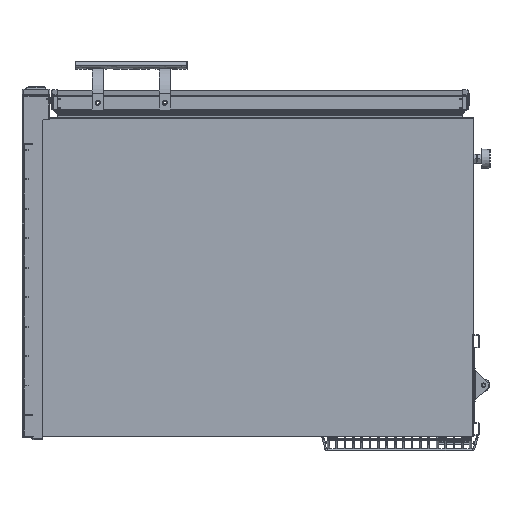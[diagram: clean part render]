
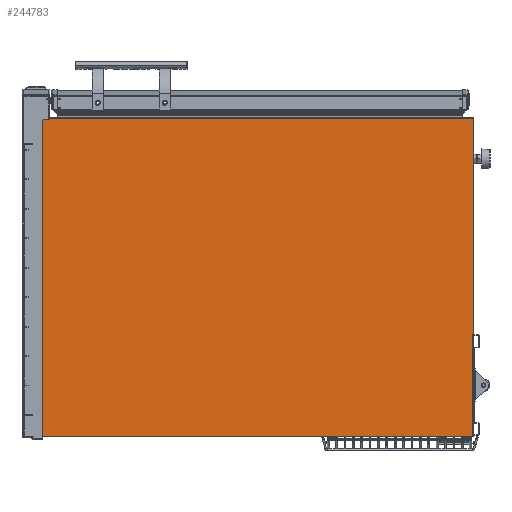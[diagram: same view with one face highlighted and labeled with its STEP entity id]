
A CAD part, left-side view. The second image highlights one B-rep face of the part: STEP entity #244783.
In plain terms, the highlighted planar face has unit normal (-1, 0, 0).
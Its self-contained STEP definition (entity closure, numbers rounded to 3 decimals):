
#382 = CARTESIAN_POINT ( 'NONE',  ( -252.732, -553.452, 1072.5 ) ) ;
#1291 = DIRECTION ( 'NONE',  ( 0., 0., -1. ) ) ;
#9721 = CARTESIAN_POINT ( 'NONE',  ( -252.732, -553.452, 1070.709 ) ) ;
#11742 = EDGE_CURVE ( 'NONE', #144553, #155879, #125437, .T. ) ;
#12757 = ORIENTED_EDGE ( 'NONE', *, *, #91485, .F. ) ;
#17009 = DIRECTION ( 'NONE',  ( -1., 0., 0. ) ) ;
#29004 = VECTOR ( 'NONE', #38626, 1000. ) ;
#34865 = VECTOR ( 'NONE', #123767, 1000. ) ;
#38626 = DIRECTION ( 'NONE',  ( 0., 1., 0. ) ) ;
#50674 = LINE ( 'NONE', #205870, #316785 ) ;
#53159 = CARTESIAN_POINT ( 'NONE',  ( -252.732, -553.452, 1072.5 ) ) ;
#55646 = ORIENTED_EDGE ( 'NONE', *, *, #254977, .T. ) ;
#58672 = DIRECTION ( 'NONE',  ( 0., 0., -1. ) ) ;
#66540 = EDGE_CURVE ( 'NONE', #195499, #245864, #225629, .T. ) ;
#68899 = CARTESIAN_POINT ( 'NONE',  ( -252.732, -553.452, 503.5 ) ) ;
#80126 = EDGE_CURVE ( 'NONE', #144553, #332809, #226673, .T. ) ;
#88007 = FACE_OUTER_BOUND ( 'NONE', #130937, .T. ) ;
#91485 = EDGE_CURVE ( 'NONE', #246480, #238516, #163140, .T. ) ;
#97891 = CARTESIAN_POINT ( 'NONE',  ( -252.732, -159.952, 788. ) ) ;
#99702 = ORIENTED_EDGE ( 'NONE', *, *, #66540, .T. ) ;
#107125 = ORIENTED_EDGE ( 'NONE', *, *, #156618, .T. ) ;
#108107 = LINE ( 'NONE', #382, #314966 ) ;
#110634 = CARTESIAN_POINT ( 'NONE',  ( -252.732, -553.452, 1070.709 ) ) ;
#112790 = AXIS2_PLACEMENT_3D ( 'NONE', #97891, #17009, #302151 ) ;
#120767 = CARTESIAN_POINT ( 'NONE',  ( -252.732, 233.548, 503.5 ) ) ;
#122401 = CARTESIAN_POINT ( 'NONE',  ( -252.732, 233.548, 505. ) ) ;
#123767 = DIRECTION ( 'NONE',  ( 0., 1., 0. ) ) ;
#125437 = LINE ( 'NONE', #203021, #298715 ) ;
#127770 = CARTESIAN_POINT ( 'NONE',  ( -252.732, 232.048, 503.5 ) ) ;
#129048 = ORIENTED_EDGE ( 'NONE', *, *, #305973, .F. ) ;
#129328 = CARTESIAN_POINT ( 'NONE',  ( -252.732, 232.048, 1072.5 ) ) ;
#129396 = LINE ( 'NONE', #232300, #271432 ) ;
#130937 = EDGE_LOOP ( 'NONE', ( #107125, #129048, #99702, #288697, #12757, #157332, #55646, #162275, #316323, #303049, #234724, #220745 ) ) ;
#132340 = DIRECTION ( 'NONE',  ( 0., 1., 0. ) ) ;
#134988 = CARTESIAN_POINT ( 'NONE',  ( -252.732, -553.452, 1072.5 ) ) ;
#144553 = VERTEX_POINT ( 'NONE', #129328 ) ;
#155667 = VECTOR ( 'NONE', #132340, 1000. ) ;
#155879 = VERTEX_POINT ( 'NONE', #179144 ) ;
#156618 = EDGE_CURVE ( 'NONE', #163538, #237413, #50674, .T. ) ;
#157332 = ORIENTED_EDGE ( 'NONE', *, *, #272225, .T. ) ;
#162275 = ORIENTED_EDGE ( 'NONE', *, *, #11742, .F. ) ;
#163140 = LINE ( 'NONE', #9721, #219422 ) ;
#163538 = VERTEX_POINT ( 'NONE', #120767 ) ;
#165404 = VERTEX_POINT ( 'NONE', #210685 ) ;
#166777 = VERTEX_POINT ( 'NONE', #195250 ) ;
#166907 = LINE ( 'NONE', #134988, #332738 ) ;
#168434 = LINE ( 'NONE', #269922, #29004 ) ;
#176332 = DIRECTION ( 'NONE',  ( 0., 0., 1. ) ) ;
#179144 = CARTESIAN_POINT ( 'NONE',  ( -252.732, -551.952, 1072.5 ) ) ;
#184623 = LINE ( 'NONE', #53159, #155667 ) ;
#186779 = LINE ( 'NONE', #316754, #247018 ) ;
#188684 = EDGE_CURVE ( 'NONE', #165404, #163538, #186779, .T. ) ;
#190787 = PLANE ( 'NONE',  #112790 ) ;
#193473 = CARTESIAN_POINT ( 'NONE',  ( -252.732, -553.452, 505. ) ) ;
#195250 = CARTESIAN_POINT ( 'NONE',  ( -252.732, -553.452, 1072.5 ) ) ;
#195499 = VERTEX_POINT ( 'NONE', #298569 ) ;
#198006 = CARTESIAN_POINT ( 'NONE',  ( -252.732, -553.452, 1072.5 ) ) ;
#203021 = CARTESIAN_POINT ( 'NONE',  ( -252.732, -551.952, 1072.5 ) ) ;
#204316 = CARTESIAN_POINT ( 'NONE',  ( -252.732, 233.548, 1071. ) ) ;
#205870 = CARTESIAN_POINT ( 'NONE',  ( -252.732, -553.452, 503.5 ) ) ;
#210685 = CARTESIAN_POINT ( 'NONE',  ( -252.732, 233.548, 505. ) ) ;
#219277 = DIRECTION ( 'NONE',  ( 0., 0., 1. ) ) ;
#219422 = VECTOR ( 'NONE', #244146, 1000. ) ;
#220554 = VECTOR ( 'NONE', #176332, 1000. ) ;
#220745 = ORIENTED_EDGE ( 'NONE', *, *, #188684, .T. ) ;
#225629 = LINE ( 'NONE', #68899, #260000 ) ;
#226673 = LINE ( 'NONE', #198006, #34865 ) ;
#231367 = DIRECTION ( 'NONE',  ( 0., 0., 1. ) ) ;
#232300 = CARTESIAN_POINT ( 'NONE',  ( -252.732, 233.548, 1072.5 ) ) ;
#234724 = ORIENTED_EDGE ( 'NONE', *, *, #254821, .F. ) ;
#237413 = VERTEX_POINT ( 'NONE', #127770 ) ;
#238516 = VERTEX_POINT ( 'NONE', #193473 ) ;
#244146 = DIRECTION ( 'NONE',  ( 0., 0., -1. ) ) ;
#244783 = ADVANCED_FACE ( 'NONE', ( #88007 ), #190787, .T. ) ;
#245864 = VERTEX_POINT ( 'NONE', #309857 ) ;
#246480 = VERTEX_POINT ( 'NONE', #110634 ) ;
#247018 = VECTOR ( 'NONE', #58672, 1000. ) ;
#254821 = EDGE_CURVE ( 'NONE', #165404, #264151, #301399, .T. ) ;
#254977 = EDGE_CURVE ( 'NONE', #166777, #155879, #184623, .T. ) ;
#258225 = DIRECTION ( 'NONE',  ( 0., -1., 0. ) ) ;
#258373 = EDGE_CURVE ( 'NONE', #332809, #264151, #129396, .T. ) ;
#260000 = VECTOR ( 'NONE', #328686, 1000. ) ;
#264151 = VERTEX_POINT ( 'NONE', #204316 ) ;
#269922 = CARTESIAN_POINT ( 'NONE',  ( -252.732, -551.952, 503.5 ) ) ;
#271432 = VECTOR ( 'NONE', #1291, 1000. ) ;
#272225 = EDGE_CURVE ( 'NONE', #246480, #166777, #108107, .T. ) ;
#279475 = EDGE_CURVE ( 'NONE', #245864, #238516, #166907, .T. ) ;
#288697 = ORIENTED_EDGE ( 'NONE', *, *, #279475, .T. ) ;
#298569 = CARTESIAN_POINT ( 'NONE',  ( -252.732, -551.952, 503.5 ) ) ;
#298715 = VECTOR ( 'NONE', #326346, 1000. ) ;
#301399 = LINE ( 'NONE', #122401, #220554 ) ;
#302151 = DIRECTION ( 'NONE',  ( 0., 0., 1. ) ) ;
#303049 = ORIENTED_EDGE ( 'NONE', *, *, #258373, .T. ) ;
#305973 = EDGE_CURVE ( 'NONE', #195499, #237413, #168434, .T. ) ;
#309857 = CARTESIAN_POINT ( 'NONE',  ( -252.732, -553.452, 503.5 ) ) ;
#314966 = VECTOR ( 'NONE', #231367, 1000. ) ;
#314982 = CARTESIAN_POINT ( 'NONE',  ( -252.732, 233.548, 1072.5 ) ) ;
#316323 = ORIENTED_EDGE ( 'NONE', *, *, #80126, .T. ) ;
#316754 = CARTESIAN_POINT ( 'NONE',  ( -252.732, 233.548, 1072.5 ) ) ;
#316785 = VECTOR ( 'NONE', #258225, 1000. ) ;
#326346 = DIRECTION ( 'NONE',  ( 0., -1., 0. ) ) ;
#328686 = DIRECTION ( 'NONE',  ( 0., -1., 0. ) ) ;
#332738 = VECTOR ( 'NONE', #219277, 1000. ) ;
#332809 = VERTEX_POINT ( 'NONE', #314982 ) ;
